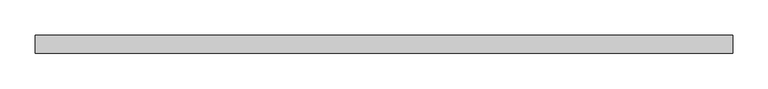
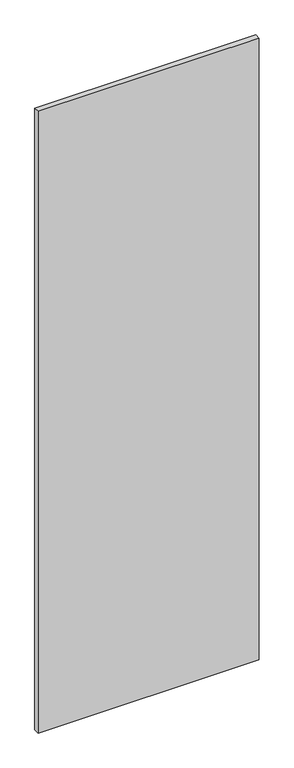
"""IFC4 building model written with IfcOpenShell, lengths in millimetres: plate geometry, Системная панель : ADSK_Cтеклопакет_25."""

from ifc_helpers import new_model, si_unit, origin, origin_with_axes, place, context, project, spatial, polyline, outline, extrude, source, transform, mapped, element, save


def plate_d26f8b38(model_context):
    return source(origin(), model_context, "Body", "SweptSolid", [
        extrude(outline(polyline([(492.5, -12.5), (-492.5, -12.5), (-492.5, 12.5), (492.5, 12.5), (492.5, -12.5)])), origin_with_axes(), (0.0, 0.0, 1.0), 2925.0),
    ])


if __name__ == "__main__":
    model = new_model("IFC4")
    model_context = context("Model", 3, world=origin())
    ifc_project = project(units=[si_unit("LENGTHUNIT", "METRE", prefix="MILLI")], contexts=[model_context])
    site = spatial("IfcSite", under=ifc_project)
    building = spatial("IfcBuilding", under=site)
    placement = place(None, origin())
    plate_shape = plate_d26f8b38(model_context)
    element("IfcPlate", 1, ObjectType="Системная панель : ADSK_Cтеклопакет_25", at=placement, inside=building, context=model_context, shape_type="MappedRepresentation", body=[
        mapped(plate_shape, transform((0.0, 0.0, 0.0), x_axis=(1.0, 0.0, 0.0), y_axis=(0.0, 1.0, 0.0), z_axis=(0.0, 0.0, 1.0))),
    ])
    save(model, "model.ifc")
